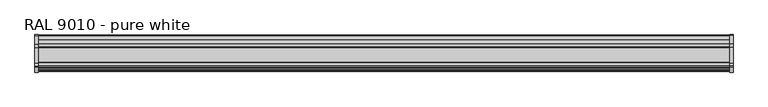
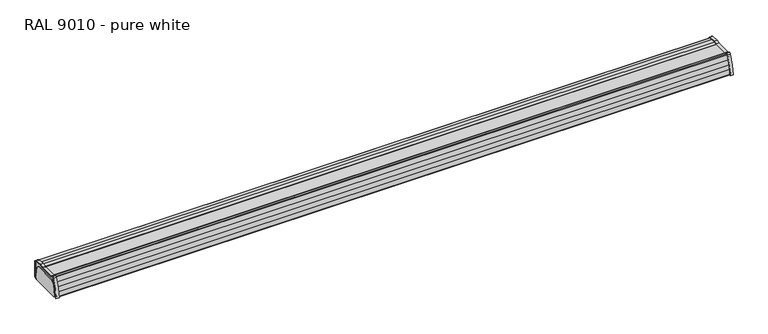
"""IFC4 building model written with IfcOpenShell, lengths in millimetres: proxy geometry, Electrical_Installations_Hager_GBD-Curved-Lid-End-Cap : RAL 9010 - pure white."""

from ifc_helpers import new_model, si_unit, point, frame, frame_2d, origin, place, context, project, spatial, polyline, circle_curve, trimmed, segment, composite_curve, outline, extrude, source, transform, mapped, element, save
from ifc_brep_helpers import plane_surface, cylinder_surface, revolved_surface, advanced_brep


def ral_9010_pure_white_2c4c2dfb(model_context):
    return source(origin(), model_context, "Body", "SolidModel", [
        advanced_brep(
        [(2.5, 26.6837112, 30.225685), (2.5, 50.7835434, 27.4641372), (2.5, 52.5716104, 25.3259929), (2.5, 52.5716104, -21.9074834), (2.5, 47.4790938, -27.0), (2.5, 49.0716104, -27.0), (2.5, 54.0716104, -22.0), (2.5, 54.0716104, 25.3713094), (2.5, 51.0170743, 28.9997666), (2.5, 26.4999039, 31.7431557), (2.5, 17.1340337, 28.7), (2.5, -27.8908129, 28.7), (2.5, -36.5324722, 31.5078453), (2.5, -41.1489062, 29.3458662), (2.5, -54.5315388, -27.0), (2.5, -53.028134, -27.0), (2.5, -39.7920307, 28.7218397), (2.5, -36.9397961, 30.0629995), (2.5, -28.1283896, 27.2), (2.5, 17.3716104, 27.2), (-6.5, 26.6837112, 30.225685), (-6.5, 17.3716104, 27.2), (-6.5, -28.1283896, 27.2), (-6.5, -36.9397961, 30.0629995), (-6.5, -39.7920307, 28.7218397), (-6.5, -53.028134, -27.0), (-6.5, -54.5315388, -27.0), (-6.5, -41.1489062, 29.3458662), (-6.5, -36.5324722, 31.5078453), (-6.5, -27.8908129, 28.7), (-6.5, 17.1340337, 28.7), (-6.5, 26.4999039, 31.7431557), (-6.5, 51.0170743, 28.9997666), (-6.5, 54.0716104, 25.3713094), (-6.5, 54.0716104, -22.0), (-6.5, 49.0716104, -27.0), (-6.5, 47.4790938, -27.0), (-6.5, 52.5716104, -21.9074834), (-6.5, 52.5716104, 25.3259929), (-6.5, 50.7835434, 27.4641372), (0.0, 26.6837112, 30.225685), (0.0, 50.7835434, 27.4641372), (-4.0, 50.7835434, 27.4641372), (-4.0, 26.6837112, 30.225685), (0.0, 52.5716104, 25.3259929), (-4.0, 52.5716104, 25.3259929), (0.0, 52.5716104, -21.9074834), (-4.0, 52.5716104, -21.9074834), (0.0, 47.4790938, -27.0), (-4.0, 47.4790938, -27.0), (0.0, -53.028134, -27.0), (-4.0, -53.028134, -27.0), (-4.0, 54.0716104, -22.0), (0.0, 54.0716104, -22.0), (-4.0, 54.0716104, 25.3713094), (0.0, 54.0716104, 25.3713094), (-4.0, 51.0170743, 28.9997666), (0.0, 51.0170743, 28.9997666), (-4.0, 26.4999039, 31.7431557), (0.0, 26.4999039, 31.7431557), (-4.0, 17.1340337, 28.7), (0.0, 17.1340337, 28.7), (-4.0, -27.8908129, 28.7), (0.0, -27.8908129, 28.7), (-4.0, -36.5324722, 31.5078453), (0.0, -36.5324722, 31.5078453), (-4.0, -41.1489062, 29.3458662), (0.0, -41.1489062, 29.3458662), (0.0, -39.7920307, 28.7218397), (-4.0, -39.7920307, 28.7218397), (0.0, -36.9397961, 30.0629995), (-4.0, -36.9397961, 30.0629995), (0.0, -28.1283896, 27.2), (-4.0, -28.1283896, 27.2), (0.0, 17.3716104, 27.2), (-4.0, 17.3716104, 27.2)],
        [
            (0, 1, circle_curve(frame((2.5, 17.1098069, -159.8646395), z_axis=(-1.0, 0.0, 0.0), x_axis=(0.0, -1.0, 0.0)), 190.3312667)),
            (1, 2, circle_curve(frame((2.5, 50.3991961, 25.3259929), z_axis=(-1.0, 0.0, 0.0), x_axis=(0.0, -1.0, 0.0)), 2.1724143)),
            (2, 3),
            (3, 4),
            (4, 5),
            (5, 6),
            (6, 7),
            (7, 8, circle_curve(frame((2.5, 50.3892358, 25.3713094), z_axis=(1.0, 0.0, 0.0), x_axis=(0.0, -1.0, 0.0)), 3.6823746)),
            (8, 9, circle_curve(frame((2.5, 15.8869808, -174.0270531), z_axis=(1.0, 0.0, 0.0), x_axis=(0.0, -1.0, 0.0)), 206.0437162)),
            (9, 10),
            (10, 11),
            (11, 12),
            (12, 13, circle_curve(frame((2.5, -37.685306, 27.9597874), z_axis=(1.0, 0.0, 0.0), x_axis=(0.0, -1.0, 0.0)), 3.7306488)),
            (13, 14, circle_curve(frame((2.5, 141.8051328, -43.8694858), z_axis=(1.0, 0.0, 0.0), x_axis=(0.0, -1.0, 0.0)), 197.0600623)),
            (14, 15),
            (15, 16, circle_curve(frame((2.5, 145.2588707, -44.6679083), z_axis=(-1.0, 0.0, 0.0), x_axis=(0.0, -1.0, 0.0)), 199.0725777)),
            (16, 17, circle_curve(frame((2.5, -37.6514074, 27.8728851), z_axis=(-1.0, 0.0, 0.0), x_axis=(0.0, -1.0, 0.0)), 2.3028226)),
            (17, 18),
            (18, 19),
            (19, 0),
            (20, 21),
            (21, 22),
            (22, 23),
            (23, 24, circle_curve(frame((-6.5, -37.6514074, 27.8728851), z_axis=(1.0, 0.0, 0.0), x_axis=(0.0, -1.0, 0.0)), 2.3028226)),
            (24, 25, circle_curve(frame((-6.5, 145.2588707, -44.6679083), z_axis=(1.0, 0.0, 0.0), x_axis=(0.0, -1.0, 0.0)), 199.0725777)),
            (25, 26),
            (26, 27, circle_curve(frame((-6.5, 141.8051328, -43.8694858), z_axis=(-1.0, 0.0, 0.0), x_axis=(0.0, -1.0, 0.0)), 197.0600623)),
            (27, 28, circle_curve(frame((-6.5, -37.685306, 27.9597874), z_axis=(-1.0, 0.0, 0.0), x_axis=(0.0, -1.0, 0.0)), 3.7306488)),
            (28, 29),
            (29, 30),
            (30, 31),
            (31, 32, circle_curve(frame((-6.5, 15.8869808, -174.0270531), z_axis=(-1.0, 0.0, 0.0), x_axis=(0.0, -1.0, 0.0)), 206.0437162)),
            (32, 33, circle_curve(frame((-6.5, 50.3892358, 25.3713094), z_axis=(-1.0, 0.0, 0.0), x_axis=(0.0, -1.0, 0.0)), 3.6823746)),
            (33, 34),
            (34, 35),
            (35, 36),
            (36, 37),
            (37, 38),
            (38, 39, circle_curve(frame((-6.5, 50.3991961, 25.3259929), z_axis=(1.0, 0.0, 0.0), x_axis=(0.0, -1.0, 0.0)), 2.1724143)),
            (39, 20, circle_curve(frame((-6.5, 17.1098069, -159.8646395), z_axis=(1.0, 0.0, 0.0), x_axis=(0.0, -1.0, 0.0)), 190.3312667)),
            (0, 40),
            (40, 41, circle_curve(frame((0.0, 17.1098069, -159.8646395), z_axis=(-1.0, 0.0, 0.0), x_axis=(0.0, -1.0, 0.0)), 190.3312667)),
            (41, 1),
            (39, 42),
            (42, 43, circle_curve(frame((-4.0, 17.1098069, -159.8646395), z_axis=(1.0, 0.0, 0.0), x_axis=(0.0, -1.0, 0.0)), 190.3312667)),
            (43, 20),
            (41, 44, circle_curve(frame((0.0, 50.3991961, 25.3259929), z_axis=(-1.0, 0.0, 0.0), x_axis=(0.0, -1.0, 0.0)), 2.1724143)),
            (44, 2),
            (38, 45),
            (45, 42, circle_curve(frame((-4.0, 50.3991961, 25.3259929), z_axis=(1.0, 0.0, 0.0), x_axis=(0.0, -1.0, 0.0)), 2.1724143)),
            (44, 46),
            (46, 3),
            (37, 47),
            (47, 45),
            (46, 48),
            (48, 4),
            (36, 49),
            (49, 47),
            (48, 50),
            (50, 15),
            (14, 26),
            (25, 51),
            (51, 49),
            (35, 5),
            (34, 52),
            (52, 53),
            (53, 6),
            (33, 54),
            (54, 55),
            (55, 7),
            (32, 56),
            (56, 57),
            (57, 8),
            (31, 58),
            (58, 59),
            (59, 9),
            (30, 60),
            (60, 61),
            (61, 10),
            (29, 62),
            (62, 63),
            (63, 11),
            (28, 64),
            (64, 65),
            (65, 12),
            (27, 66),
            (66, 67),
            (67, 13),
            (50, 68, circle_curve(frame((0.0, 145.2588707, -44.6679083), z_axis=(-1.0, 0.0, 0.0), x_axis=(0.0, -1.0, 0.0)), 199.0725777)),
            (68, 16),
            (24, 69),
            (69, 51, circle_curve(frame((-4.0, 145.2588707, -44.6679083), z_axis=(1.0, 0.0, 0.0), x_axis=(0.0, -1.0, 0.0)), 199.0725777)),
            (68, 70, circle_curve(frame((0.0, -37.6514074, 27.8728851), z_axis=(-1.0, 0.0, 0.0), x_axis=(0.0, -1.0, 0.0)), 2.3028226)),
            (70, 17),
            (23, 71),
            (71, 69, circle_curve(frame((-4.0, -37.6514074, 27.8728851), z_axis=(1.0, 0.0, 0.0), x_axis=(0.0, -1.0, 0.0)), 2.3028226)),
            (70, 72),
            (72, 18),
            (22, 73),
            (73, 71),
            (72, 74),
            (74, 19),
            (21, 75),
            (75, 73),
            (74, 40),
            (43, 75),
        ],
        [
            plane_surface(frame((2.5, 0.0, 0.0), z_axis=(1.0, 0.0, 0.0), x_axis=(0.0, 0.0, 1.0))),
            plane_surface(frame((-6.5, 0.0, 0.0), z_axis=(-1.0, 0.0, 0.0), x_axis=(0.0, 0.0, 1.0))),
            revolved_surface(polyline([(0.0, -173.2214598, -159.8646395), (2.5, -173.2214598, -159.8646395)]), (2.5, 17.1098069, -159.8646395), (-1.0, 0.0, 0.0)),
            revolved_surface(polyline([(-6.5, -173.2214598, -159.8646395), (-4.0, -173.2214598, -159.8646395)]), (2.5, 17.1098069, -159.8646395), (-1.0, 0.0, 0.0)),
            revolved_surface(polyline([(0.0, 48.2267818, 25.3259929), (2.5, 48.2267818, 25.3259929)]), (2.5, 50.3991961, 25.3259929), (-1.0, 0.0, 0.0)),
            revolved_surface(polyline([(-6.5, 48.2267818, 25.3259929), (-4.0, 48.2267818, 25.3259929)]), (2.5, 50.3991961, 25.3259929), (-1.0, 0.0, 0.0)),
            plane_surface(frame((2.5, 52.5716104, 25.3259929), z_axis=(0.0, -1.0, 0.0), x_axis=(-1.0, 0.0, 0.0))),
            plane_surface(frame((2.5, 52.5716104, -21.9074834), z_axis=(0.0, -0.7071067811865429, 0.7071067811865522), x_axis=(-1.0, 0.0, 0.0))),
            plane_surface(frame((2.5, 47.4790938, -27.0), z_axis=(0.0, 0.0, -1.0), x_axis=(-1.0, 0.0, 0.0))),
            plane_surface(frame((2.5, 49.0716104, -27.0), z_axis=(0.0, 0.7071067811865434, -0.7071067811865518), x_axis=(-1.0, 0.0, 0.0))),
            plane_surface(frame((2.5, 54.0716104, -22.0), z_axis=(0.0, 1.0, 0.0), x_axis=(-1.0, 0.0, 0.0))),
            cylinder_surface(frame((2.5, 50.3892358, 25.3713094), z_axis=(1.0, 0.0, 0.0), x_axis=(0.0, -1.0, 0.0)), 3.6823746),
            cylinder_surface(frame((2.5, 15.8869808, -174.0270531), z_axis=(1.0, 0.0, 0.0), x_axis=(0.0, -1.0, 0.0)), 206.0437162),
            plane_surface(frame((2.5, 26.4999039, 31.7431557), z_axis=(0.0, -0.3090169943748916, 0.9510565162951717), x_axis=(-1.0, 0.0, 0.0))),
            plane_surface(frame((2.5, 17.1340337, 28.7), z_axis=(0.0, 0.0, 1.0), x_axis=(-1.0, 0.0, 0.0))),
            plane_surface(frame((2.5, -27.8908129, 28.7), z_axis=(0.0, 0.3090169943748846, 0.9510565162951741), x_axis=(-1.0, 0.0, 0.0))),
            cylinder_surface(frame((2.5, -37.685306, 27.9597874), z_axis=(1.0, 0.0, 0.0), x_axis=(0.0, -1.0, 0.0)), 3.7306488),
            cylinder_surface(frame((2.5, 141.8051328, -43.8694858), z_axis=(1.0, 0.0, 0.0), x_axis=(0.0, -1.0, 0.0)), 197.0600623),
            revolved_surface(polyline([(0.0, -53.81370700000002, -44.6679083), (2.5, -53.81370700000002, -44.6679083)]), (2.5, 145.2588707, -44.6679083), (-1.0, 0.0, 0.0)),
            revolved_surface(polyline([(-6.5, -53.81370700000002, -44.6679083), (-4.0, -53.81370700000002, -44.6679083)]), (2.5, 145.2588707, -44.6679083), (-1.0, 0.0, 0.0)),
            revolved_surface(polyline([(0.0, -39.954229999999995, 27.8728851), (2.5, -39.954229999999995, 27.8728851)]), (2.5, -37.6514074, 27.8728851), (-1.0, 0.0, 0.0)),
            revolved_surface(polyline([(-6.5, -39.954229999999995, 27.8728851), (-4.0, -39.954229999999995, 27.8728851)]), (2.5, -37.6514074, 27.8728851), (-1.0, 0.0, 0.0)),
            plane_surface(frame((2.5, -36.9397961, 30.0629995), z_axis=(0.0, -0.30901699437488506, -0.9510565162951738), x_axis=(-1.0, 0.0, 0.0))),
            plane_surface(frame((2.5, -28.1283896, 27.2), z_axis=(0.0, 0.0, -1.0), x_axis=(-1.0, 0.0, 0.0))),
            plane_surface(frame((2.5, 17.3716104, 27.2), z_axis=(0.0, 0.3090169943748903, -0.9510565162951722), x_axis=(-1.0, 0.0, 0.0))),
            plane_surface(frame((-4.0, 0.0, 0.0), z_axis=(-1.0, 0.0, 0.0), x_axis=(0.0, 0.0, 1.0))),
            plane_surface(frame((0.0, 0.0, 0.0), z_axis=(1.0, 0.0, 0.0), x_axis=(0.0, 0.0, 1.0))),
        ],
        [
            (0, [[1, 2, 3, 4, 5, 6, 7, 8, 9, 10, 11, 12, 13, 14, 15, 16, 17, 18, 19, 20]]),
            (1, [[21, 22, 23, 24, 25, 26, 27, 28, 29, 30, 31, 32, 33, 34, 35, 36, 37, 38, 39, 40]]),
            (2, [[-1, 41, 42, 43]]),
            (3, [[-40, 44, 45, 46]]),
            (4, [[-2, -43, 47, 48]]),
            (5, [[-39, 49, 50, -44]]),
            (6, [[-3, -48, 51, 52]]),
            (6, [[-38, 53, 54, -49]]),
            (7, [[-4, -52, 55, 56]]),
            (7, [[-37, 57, 58, -53]]),
            (8, [[-5, -56, 59, 60, -15, 61, -26, 62, 63, -57, -36, 64]]),
            (9, [[-6, -64, -35, 65, 66, 67]]),
            (10, [[-7, -67, -66, -65, -34, 68, 69, 70]]),
            (11, [[-8, -70, -69, -68, -33, 71, 72, 73]]),
            (12, [[-9, -73, -72, -71, -32, 74, 75, 76]]),
            (13, [[-10, -76, -75, -74, -31, 77, 78, 79]]),
            (14, [[-11, -79, -78, -77, -30, 80, 81, 82]]),
            (15, [[-12, -82, -81, -80, -29, 83, 84, 85]]),
            (16, [[-13, -85, -84, -83, -28, 86, 87, 88]]),
            (17, [[-61, -14, -88, -87, -86, -27]]),
            (18, [[-16, -60, 89, 90]]),
            (19, [[-25, 91, 92, -62]]),
            (20, [[-17, -90, 93, 94]]),
            (21, [[-24, 95, 96, -91]]),
            (22, [[-18, -94, 97, 98]]),
            (22, [[-23, 99, 100, -95]]),
            (23, [[-19, -98, 101, 102]]),
            (23, [[-22, 103, 104, -99]]),
            (24, [[-20, -102, 105, -41]]),
            (24, [[-21, -46, 106, -103]]),
            (25, [[-63, -92, -96, -100, -104, -106, -45, -50, -54, -58]]),
            (26, [[-59, -55, -51, -47, -42, -105, -101, -97, -93, -89]]),
        ],
    ),
        advanced_brep(
        [(1997.5, -27.8908129, 28.7157982), (1997.5, 17.1340337, 28.7157982), (1997.5, 26.4999039, 31.7589539), (1997.5, 51.0170743, 29.0155647), (1997.5, 54.0716104, 25.3871076), (1997.5, 54.0716104, -21.9842018), (1997.5, 49.0716104, -26.9842018), (1997.5, 47.4790938, -26.9842018), (1997.5, 52.5716104, -21.8916852), (1997.5, 52.5716104, 25.3417911), (1997.5, 50.7835434, 27.4799354), (1997.5, 26.6837112, 30.2414832), (1997.5, 17.3716104, 27.2157982), (1997.5, -28.1283896, 27.2157982), (1997.5, -36.9397961, 30.0787977), (1997.5, -39.7920307, 28.7376378), (1997.5, -53.028134, -26.9842018), (1997.5, -54.5315388, -26.9842018), (1997.5, -41.1489062, 29.3616644), (1997.5, -36.5324722, 31.5236435), (2006.5, -27.8908129, 28.7157982), (2006.5, -36.5324722, 31.5236435), (2006.5, -41.1489062, 29.3616644), (2006.5, -54.5315388, -26.9842018), (2006.5, -53.028134, -26.9842018), (2006.5, -39.7920307, 28.7376378), (2006.5, -36.9397961, 30.0787977), (2006.5, -28.1283896, 27.2157982), (2006.5, 17.3716104, 27.2157982), (2006.5, 26.6837112, 30.2414832), (2006.5, 50.7835434, 27.4799354), (2006.5, 52.5716104, 25.3417911), (2006.5, 52.5716104, -21.8916852), (2006.5, 47.4790938, -26.9842018), (2006.5, 49.0716104, -26.9842018), (2006.5, 54.0716104, -21.9842018), (2006.5, 54.0716104, 25.3871076), (2006.5, 51.0170743, 29.0155647), (2006.5, 26.4999039, 31.7589539), (2006.5, 17.1340337, 28.7157982), (2000.0, -27.8908129, 28.7157982), (2004.0, -27.8908129, 28.7157982), (2004.0, 17.1340337, 28.7157982), (2000.0, 17.1340337, 28.7157982), (2004.0, 26.4999039, 31.7589539), (2000.0, 26.4999039, 31.7589539), (2004.0, 51.0170743, 29.0155647), (2000.0, 51.0170743, 29.0155647), (2004.0, 54.0716104, 25.3871076), (2000.0, 54.0716104, 25.3871076), (2004.0, 54.0716104, -21.9842018), (2000.0, 54.0716104, -21.9842018), (2000.0, -53.028134, -26.9842018), (2000.0, 47.4790938, -26.9842018), (2004.0, 47.4790938, -26.9842018), (2004.0, -53.028134, -26.9842018), (2004.0, -41.1489062, 29.3616644), (2000.0, -41.1489062, 29.3616644), (2004.0, -36.5324722, 31.5236435), (2000.0, -36.5324722, 31.5236435), (2000.0, 52.5716104, -21.8916852), (2004.0, 52.5716104, -21.8916852), (2000.0, 52.5716104, 25.3417911), (2004.0, 52.5716104, 25.3417911), (2000.0, 50.7835434, 27.4799354), (2004.0, 50.7835434, 27.4799354), (2000.0, 26.6837112, 30.2414832), (2004.0, 26.6837112, 30.2414832), (2000.0, 17.3716104, 27.2157982), (2004.0, 17.3716104, 27.2157982), (2000.0, -28.1283896, 27.2157982), (2004.0, -28.1283896, 27.2157982), (2000.0, -36.9397961, 30.0787977), (2004.0, -36.9397961, 30.0787977), (2000.0, -39.7920307, 28.7376378), (2004.0, -39.7920307, 28.7376378)],
        [
            (0, 1),
            (1, 2),
            (2, 3, circle_curve(frame((1997.5, 15.8869808, -174.0112549), z_axis=(-1.0, 0.0, 0.0), x_axis=(0.0, 1.0, 0.0)), 206.0437162)),
            (3, 4, circle_curve(frame((1997.5, 50.3892358, 25.3871076), z_axis=(-1.0, 0.0, 0.0), x_axis=(0.0, 1.0, 0.0)), 3.6823746)),
            (4, 5),
            (5, 6),
            (6, 7),
            (7, 8),
            (8, 9),
            (9, 10, circle_curve(frame((1997.5, 50.3991961, 25.3417911), z_axis=(1.0, 0.0, 0.0), x_axis=(0.0, 1.0, 0.0)), 2.1724143)),
            (10, 11, circle_curve(frame((1997.5, 17.1098069, -159.8488413), z_axis=(1.0, 0.0, 0.0), x_axis=(0.0, 1.0, 0.0)), 190.3312667)),
            (11, 12),
            (12, 13),
            (13, 14),
            (14, 15, circle_curve(frame((1997.5, -37.6514074, 27.8886833), z_axis=(1.0, 0.0, 0.0), x_axis=(0.0, 1.0, 0.0)), 2.3028226)),
            (15, 16, circle_curve(frame((1997.5, 145.2588707, -44.6521101), z_axis=(1.0, 0.0, 0.0), x_axis=(0.0, 1.0, 0.0)), 199.0725777)),
            (16, 17),
            (17, 18, circle_curve(frame((1997.5, 141.8051328, -43.8536876), z_axis=(-1.0, 0.0, 0.0), x_axis=(0.0, 1.0, 0.0)), 197.0600623)),
            (18, 19, circle_curve(frame((1997.5, -37.685306, 27.9755856), z_axis=(-1.0, 0.0, 0.0), x_axis=(0.0, 1.0, 0.0)), 3.7306488)),
            (19, 0),
            (20, 21),
            (21, 22, circle_curve(frame((2006.5, -37.685306, 27.9755856), z_axis=(1.0, 0.0, 0.0), x_axis=(0.0, 1.0, 0.0)), 3.7306488)),
            (22, 23, circle_curve(frame((2006.5, 141.8051328, -43.8536876), z_axis=(1.0, 0.0, 0.0), x_axis=(0.0, 1.0, 0.0)), 197.0600623)),
            (23, 24),
            (24, 25, circle_curve(frame((2006.5, 145.2588707, -44.6521101), z_axis=(-1.0, 0.0, 0.0), x_axis=(0.0, 1.0, 0.0)), 199.0725777)),
            (25, 26, circle_curve(frame((2006.5, -37.6514074, 27.8886833), z_axis=(-1.0, 0.0, 0.0), x_axis=(0.0, 1.0, 0.0)), 2.3028226)),
            (26, 27),
            (27, 28),
            (28, 29),
            (29, 30, circle_curve(frame((2006.5, 17.1098069, -159.8488413), z_axis=(-1.0, 0.0, 0.0), x_axis=(0.0, 1.0, 0.0)), 190.3312667)),
            (30, 31, circle_curve(frame((2006.5, 50.3991961, 25.3417911), z_axis=(-1.0, 0.0, 0.0), x_axis=(0.0, 1.0, 0.0)), 2.1724143)),
            (31, 32),
            (32, 33),
            (33, 34),
            (34, 35),
            (35, 36),
            (36, 37, circle_curve(frame((2006.5, 50.3892358, 25.3871076), z_axis=(1.0, 0.0, 0.0), x_axis=(0.0, 1.0, 0.0)), 3.6823746)),
            (37, 38, circle_curve(frame((2006.5, 15.8869808, -174.0112549), z_axis=(1.0, 0.0, 0.0), x_axis=(0.0, 1.0, 0.0)), 206.0437162)),
            (38, 39),
            (39, 20),
            (0, 40),
            (40, 41),
            (41, 20),
            (39, 42),
            (42, 43),
            (43, 1),
            (38, 44),
            (44, 45),
            (45, 2),
            (37, 46),
            (46, 47),
            (47, 3),
            (36, 48),
            (48, 49),
            (49, 4),
            (35, 50),
            (50, 51),
            (51, 5),
            (34, 6),
            (16, 52),
            (52, 53),
            (53, 7),
            (33, 54),
            (54, 55),
            (55, 24),
            (23, 17),
            (22, 56),
            (56, 57),
            (57, 18),
            (21, 58),
            (58, 59),
            (59, 19),
            (53, 60),
            (60, 8),
            (32, 61),
            (61, 54),
            (60, 62),
            (62, 9),
            (31, 63),
            (63, 61),
            (62, 64, circle_curve(frame((2000.0, 50.3991961, 25.3417911), z_axis=(1.0, 0.0, 0.0), x_axis=(0.0, 1.0, 0.0)), 2.1724143)),
            (64, 10),
            (30, 65),
            (65, 63, circle_curve(frame((2004.0, 50.3991961, 25.3417911), z_axis=(-1.0, 0.0, 0.0), x_axis=(0.0, 1.0, 0.0)), 2.1724143)),
            (64, 66, circle_curve(frame((2000.0, 17.1098069, -159.8488413), z_axis=(1.0, 0.0, 0.0), x_axis=(0.0, 1.0, 0.0)), 190.3312667)),
            (66, 11),
            (29, 67),
            (67, 65, circle_curve(frame((2004.0, 17.1098069, -159.8488413), z_axis=(-1.0, 0.0, 0.0), x_axis=(0.0, 1.0, 0.0)), 190.3312667)),
            (66, 68),
            (68, 12),
            (28, 69),
            (69, 67),
            (68, 70),
            (70, 13),
            (27, 71),
            (71, 69),
            (70, 72),
            (72, 14),
            (26, 73),
            (73, 71),
            (72, 74, circle_curve(frame((2000.0, -37.6514074, 27.8886833), z_axis=(1.0, 0.0, 0.0), x_axis=(0.0, 1.0, 0.0)), 2.3028226)),
            (74, 15),
            (25, 75),
            (75, 73, circle_curve(frame((2004.0, -37.6514074, 27.8886833), z_axis=(-1.0, 0.0, 0.0), x_axis=(0.0, 1.0, 0.0)), 2.3028226)),
            (74, 52, circle_curve(frame((2000.0, 145.2588707, -44.6521101), z_axis=(1.0, 0.0, 0.0), x_axis=(0.0, 1.0, 0.0)), 199.0725777)),
            (55, 75, circle_curve(frame((2004.0, 145.2588707, -44.6521101), z_axis=(-1.0, 0.0, 0.0), x_axis=(0.0, 1.0, 0.0)), 199.0725777)),
        ],
        [
            plane_surface(frame((1997.5, 0.0, 0.0), z_axis=(-1.0, 0.0, 0.0), x_axis=(0.0, 0.0, 1.0))),
            plane_surface(frame((2006.5, 0.0, 0.0), z_axis=(1.0, 0.0, 0.0), x_axis=(0.0, 0.0, 1.0))),
            plane_surface(frame((1997.5, -27.8908129, 28.7157982), z_axis=(0.0, 0.0, 1.0), x_axis=(1.0, 0.0, 0.0))),
            plane_surface(frame((1997.5, 17.1340337, 28.7157982), z_axis=(0.0, -0.30901699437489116, 0.951056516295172), x_axis=(1.0, 0.0, 0.0))),
            cylinder_surface(frame((1997.5, 15.8869808, -174.0112549), z_axis=(-1.0, 0.0, 0.0), x_axis=(0.0, 1.0, 0.0)), 206.0437162),
            cylinder_surface(frame((1997.5, 50.3892358, 25.3871076), z_axis=(-1.0, 0.0, 0.0), x_axis=(0.0, 1.0, 0.0)), 3.6823746),
            plane_surface(frame((1997.5, 54.0716104, 25.3871076), z_axis=(0.0, 1.0, 0.0), x_axis=(1.0, 0.0, 0.0))),
            plane_surface(frame((1997.5, 54.0716104, -21.9842018), z_axis=(0.0, 0.7071067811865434, -0.7071067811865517), x_axis=(1.0, 0.0, 0.0))),
            plane_surface(frame((1997.5, -53.028134, -26.9842018), z_axis=(0.0, 0.0, -1.0), x_axis=(1.0, 0.0, 0.0))),
            cylinder_surface(frame((1997.5, 141.8051328, -43.8536876), z_axis=(-1.0, 0.0, 0.0), x_axis=(0.0, 1.0, 0.0)), 197.0600623),
            cylinder_surface(frame((1997.5, -37.685306, 27.9755856), z_axis=(-1.0, 0.0, 0.0), x_axis=(0.0, 1.0, 0.0)), 3.7306488),
            plane_surface(frame((1997.5, -36.5324722, 31.5236435), z_axis=(0.0, 0.30901699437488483, 0.951056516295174), x_axis=(1.0, 0.0, 0.0))),
            plane_surface(frame((1997.5, 47.4790938, -26.9842018), z_axis=(0.0, -0.7071067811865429, 0.7071067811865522), x_axis=(1.0, 0.0, 0.0))),
            plane_surface(frame((1997.5, 52.5716104, -21.8916852), z_axis=(0.0, -1.0, 0.0), x_axis=(1.0, 0.0, 0.0))),
            revolved_surface(polyline([(2000.0, 52.5716104, 25.3417911), (1997.5, 52.5716104, 25.3417911)]), (1997.5, 50.3991961, 25.3417911), (1.0, 0.0, 0.0)),
            revolved_surface(polyline([(2006.5, 52.5716104, 25.3417911), (2004.0, 52.5716104, 25.3417911)]), (1997.5, 50.3991961, 25.3417911), (1.0, 0.0, 0.0)),
            revolved_surface(polyline([(2000.0, 207.44107359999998, -159.8488413), (1997.5, 207.44107359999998, -159.8488413)]), (1997.5, 17.1098069, -159.8488413), (1.0, 0.0, 0.0)),
            revolved_surface(polyline([(2006.5, 207.44107359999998, -159.8488413), (2004.0, 207.44107359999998, -159.8488413)]), (1997.5, 17.1098069, -159.8488413), (1.0, 0.0, 0.0)),
            plane_surface(frame((1997.5, 26.6837112, 30.2414832), z_axis=(0.0, 0.3090169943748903, -0.9510565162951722), x_axis=(1.0, 0.0, 0.0))),
            plane_surface(frame((1997.5, 17.3716104, 27.2157982), z_axis=(0.0, 0.0, -1.0), x_axis=(1.0, 0.0, 0.0))),
            plane_surface(frame((1997.5, -28.1283896, 27.2157982), z_axis=(0.0, -0.3090169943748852, -0.9510565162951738), x_axis=(1.0, 0.0, 0.0))),
            revolved_surface(polyline([(2000.0, -35.3485848, 27.8886833), (1997.5, -35.3485848, 27.8886833)]), (1997.5, -37.6514074, 27.8886833), (1.0, 0.0, 0.0)),
            revolved_surface(polyline([(2006.5, -35.3485848, 27.8886833), (2004.0, -35.3485848, 27.8886833)]), (1997.5, -37.6514074, 27.8886833), (1.0, 0.0, 0.0)),
            revolved_surface(polyline([(2000.0, 344.3314484, -44.6521101), (1997.5, 344.3314484, -44.6521101)]), (1997.5, 145.2588707, -44.6521101), (1.0, 0.0, 0.0)),
            revolved_surface(polyline([(2006.5, 344.3314484, -44.6521101), (2004.0, 344.3314484, -44.6521101)]), (1997.5, 145.2588707, -44.6521101), (1.0, 0.0, 0.0)),
            plane_surface(frame((2000.0, 0.0, 0.0), z_axis=(-1.0, 0.0, 0.0), x_axis=(0.0, 0.0, 1.0))),
            plane_surface(frame((2004.0, 0.0, 0.0), z_axis=(1.0, 0.0, 0.0), x_axis=(0.0, 0.0, 1.0))),
        ],
        [
            (0, [[1, 2, 3, 4, 5, 6, 7, 8, 9, 10, 11, 12, 13, 14, 15, 16, 17, 18, 19, 20]]),
            (1, [[21, 22, 23, 24, 25, 26, 27, 28, 29, 30, 31, 32, 33, 34, 35, 36, 37, 38, 39, 40]]),
            (2, [[-1, 41, 42, 43, -40, 44, 45, 46]]),
            (3, [[-2, -46, -45, -44, -39, 47, 48, 49]]),
            (4, [[-3, -49, -48, -47, -38, 50, 51, 52]]),
            (5, [[-4, -52, -51, -50, -37, 53, 54, 55]]),
            (6, [[-5, -55, -54, -53, -36, 56, 57, 58]]),
            (7, [[59, -6, -58, -57, -56, -35]]),
            (8, [[-17, 60, 61, 62, -7, -59, -34, 63, 64, 65, -24, 66]]),
            (9, [[-18, -66, -23, 67, 68, 69]]),
            (10, [[-19, -69, -68, -67, -22, 70, 71, 72]]),
            (11, [[-20, -72, -71, -70, -21, -43, -42, -41]]),
            (12, [[-8, -62, 73, 74]]),
            (12, [[-33, 75, 76, -63]]),
            (13, [[-9, -74, 77, 78]]),
            (13, [[-32, 79, 80, -75]]),
            (14, [[-10, -78, 81, 82]]),
            (15, [[-31, 83, 84, -79]]),
            (16, [[-11, -82, 85, 86]]),
            (17, [[-30, 87, 88, -83]]),
            (18, [[-12, -86, 89, 90]]),
            (18, [[-29, 91, 92, -87]]),
            (19, [[-13, -90, 93, 94]]),
            (19, [[-28, 95, 96, -91]]),
            (20, [[-14, -94, 97, 98]]),
            (20, [[-27, 99, 100, -95]]),
            (21, [[-15, -98, 101, 102]]),
            (22, [[-26, 103, 104, -99]]),
            (23, [[-16, -102, 105, -60]]),
            (24, [[-25, -65, 106, -103]]),
            (25, [[-61, -105, -101, -97, -93, -89, -85, -81, -77, -73]]),
            (26, [[-64, -76, -80, -84, -88, -92, -96, -100, -104, -106]]),
        ],
    ),
        extrude(outline(composite_curve([segment(trimmed(circle_curve(frame_2d((47.3086805, -25.0246784)), 1.9595234), [point((49.2549179, -24.796881))], [point((47.3086805, -26.9842018))], False, "CARTESIAN"), True, "CONTINUOUS"), segment(polyline([(47.3086805, -26.9842018), (-43.3893434, -26.9842018)]), True, "CONTINUOUS"), segment(trimmed(circle_curve(frame_2d((-43.3893434, -25.0446538)), 1.939548), [point((-43.3893434, -26.9842018))], [point((-45.3080889, -24.761348))], False, "CARTESIAN"), True, "CONTINUOUS"), segment(trimmed(circle_curve(frame_2d((824.1033241, -153.1313352)), 878.8373334), [point((-45.3080889, -24.761348))], [point((-42.1530432, -4.959257))], False, "CARTESIAN"), True, "CONTINUOUS"), segment(trimmed(circle_curve(frame_2d((1952.4387407, -529.0557529)), 2062.2981165), [point((-42.1530432, -4.959257))], [point((-37.0483937, 14.0965861))], False, "CARTESIAN"), True, "CONTINUOUS"), segment(trimmed(circle_curve(frame_2d((-31.2609533, 12.5165498)), 5.9992484), [point((-37.0483937, 14.0965861))], [point((-31.2609533, 18.5157982))], False, "CARTESIAN"), True, "CONTINUOUS"), segment(polyline([(-31.2609533, 18.5157982), (35.1451288, 18.5157982)]), True, "CONTINUOUS"), segment(trimmed(circle_curve(frame_2d((35.1451288, 12.3737525)), 6.1420457), [point((35.1451288, 18.5157982))], [point((41.0125236, 14.1899034))], False, "CARTESIAN"), True, "CONTINUOUS"), segment(trimmed(circle_curve(frame_2d((-166.5410383, -50.054726)), 217.2690807), [point((41.0125236, 14.1899034))], [point((49.2549179, -24.796881))], False, "CARTESIAN"), True, "CONTINUOUS")], self_intersect=False)), frame((-6.5, 0.0, 0.0), z_axis=(1.0, 0.0, 0.0), x_axis=(0.0, 1.0, 0.0)), (0.0, 0.0, 1.0), 2.5),
        extrude(outline(composite_curve([segment(polyline([(-31.2609533, 18.5157982), (35.1451288, 18.5157982)]), True, "CONTINUOUS"), segment(trimmed(circle_curve(frame_2d((35.1451288, 12.3737525)), 6.1420457), [point((35.1451288, 18.5157982))], [point((41.0125236, 14.1899034))], False, "CARTESIAN"), True, "CONTINUOUS"), segment(trimmed(circle_curve(frame_2d((-166.5410383, -50.054726)), 217.2690807), [point((41.0125236, 14.1899034))], [point((49.2549179, -24.796881))], False, "CARTESIAN"), True, "CONTINUOUS"), segment(trimmed(circle_curve(frame_2d((47.3086805, -25.0246784)), 1.9595234), [point((49.2549179, -24.796881))], [point((47.3086805, -26.9842018))], False, "CARTESIAN"), True, "CONTINUOUS"), segment(polyline([(47.3086805, -26.9842018), (-43.3893434, -26.9842018)]), True, "CONTINUOUS"), segment(trimmed(circle_curve(frame_2d((-43.3893434, -25.0446538)), 1.939548), [point((-43.3893434, -26.9842018))], [point((-45.3080889, -24.761348))], False, "CARTESIAN"), True, "CONTINUOUS"), segment(trimmed(circle_curve(frame_2d((824.1033241, -153.1313352)), 878.8373334), [point((-45.3080889, -24.761348))], [point((-42.1530432, -4.959257))], False, "CARTESIAN"), True, "CONTINUOUS"), segment(trimmed(circle_curve(frame_2d((1952.4387407, -529.0557529)), 2062.2981165), [point((-42.1530432, -4.959257))], [point((-37.0483937, 14.0965861))], False, "CARTESIAN"), True, "CONTINUOUS"), segment(trimmed(circle_curve(frame_2d((-31.2609533, 12.5165498)), 5.9992484), [point((-37.0483937, 14.0965861))], [point((-31.2609533, 18.5157982))], False, "CARTESIAN"), True, "CONTINUOUS")], self_intersect=False)), frame((2004.0, 0.0, 0.0), z_axis=(1.0, 0.0, 0.0), x_axis=(0.0, 1.0, 0.0)), (0.0, 0.0, 1.0), 2.5),
        extrude(outline(composite_curve([segment(polyline([(47.4790938, -26.9842018), (-50.5259688, -26.9842018)]), True, "CONTINUOUS"), segment(trimmed(circle_curve(frame_2d((-50.5259688, -24.9842018)), 2.0), [point((-50.5259688, -26.9842018))], [point((-52.5065049, -24.7058556))], False, "CARTESIAN"), True, "CONTINUOUS"), segment(polyline([(-52.5065049, -24.7058556), (-50.5940829, -11.0982656), (-47.7609777, 2.2304463), (-43.918985, 15.629067), (-39.1369375, 28.7676346)]), True, "CONTINUOUS"), segment(trimmed(circle_curve(frame_2d((-37.3393404, 28.1133628)), 1.9129628), [point((-39.1369375, 28.7676346))], [point((-36.7482024, 29.9326985))], False, "CARTESIAN"), True, "CONTINUOUS"), segment(polyline([(-36.7482024, 29.9326985), (-27.9271562, 27.0665669), (-27.9271562, 16.3157982), (-25.8021562, 16.3157982), (-25.8021562, 18.7742031), (-24.8021562, 18.7742031), (-24.8021562, 14.5157982), (-29.5709062, 14.5157982), (-29.5709062, 25.1822905), (-37.1011396, 27.6290117), (-41.7579125, 14.8346332), (-45.5490531, 1.6133548), (-48.2672715, -11.1748573), (-50.165886, -24.6842018), (46.5264026, -24.6842018), (50.1790938, -21.0315106), (50.1790938, 25.1116388), (38.245883, 26.7887422), (26.7209858, 27.6815377), (19.0290938, 25.1822905), (19.0290938, 14.5157982), (14.0650313, 14.5157982), (14.0650313, 18.7590849), (15.0650313, 18.7590849), (15.0650313, 16.3157982), (17.3853438, 16.3157982), (17.3853438, 26.3589187)]), True, "CONTINUOUS"), segment(trimmed(circle_curve(frame_2d((18.3593379, 26.3589187)), 0.9739941), [point((17.3853438, 26.3589187))], [point((18.0583572, 27.2852422))], False, "CARTESIAN"), True, "CONTINUOUS"), segment(polyline([(18.0583572, 27.2852422), (26.4407381, 30.0088429), (39.0390109, 29.0328965), (50.673, 27.3978459)]), True, "CONTINUOUS"), segment(trimmed(circle_curve(frame_2d((50.3810021, 25.3201727)), 2.0980917), [point((50.673, 27.3978459))], [point((52.4790938, 25.3201727))], False, "CARTESIAN"), True, "CONTINUOUS"), segment(polyline([(52.4790938, 25.3201727), (52.4790938, -21.9842018), (47.4790938, -26.9842018)]), True, "CONTINUOUS")], self_intersect=False)), frame((0.0, 0.0, 0.0), z_axis=(1.0, 0.0, 0.0), x_axis=(0.0, 1.0, 0.0)), (0.0, 0.0, 1.0), 2000.0),
        extrude(outline(composite_curve([segment(polyline([(15.745203, 25.6769183), (-26.154797, 25.6769183), (-26.154797, 22.3769183), (-22.704797, 22.3769183), (-22.704797, 10.7769183), (-20.804797, 10.7769183), (-20.804797, 9.9769183), (-23.704797, 9.9769183), (-23.704797, 21.3769183), (-26.4579385, 21.3769183), (-26.4579385, 16.9820828), (-27.4594845, 16.9820828), (-27.4594845, 26.1853119)]), True, "CONTINUOUS"), segment(trimmed(circle_curve(frame_2d((-26.5495226, 26.1853119)), 0.9099619), [point((-27.4594845, 26.1853119))], [point((-26.5495226, 27.0952739))], False, "CARTESIAN"), True, "CONTINUOUS"), segment(polyline([(-26.5495226, 27.0952739), (15.9245226, 27.0952739)]), True, "CONTINUOUS"), segment(trimmed(circle_curve(frame_2d((15.9245226, 26.0870935)), 1.0081804), [point((15.9245226, 27.0952739))], [point((16.932703, 26.0870935))], False, "CARTESIAN"), True, "CONTINUOUS"), segment(polyline([(16.932703, 26.0870935), (16.932703, 16.9491118), (16.0483444, 16.9491118), (16.0483444, 21.3769183), (13.295203, 21.3769183), (13.295203, 9.9769183), (10.395203, 9.9769183), (10.395203, 10.7769183), (12.295203, 10.7769183), (12.295203, 22.3769183), (15.745203, 22.3769183), (15.745203, 25.6769183)]), True, "CONTINUOUS")], self_intersect=False)), frame((0.0, 0.0, 0.0), z_axis=(1.0, 0.0, 0.0), x_axis=(0.0, 1.0, 0.0)), (0.0, 0.0, 1.0), 2000.0),
    ])


if __name__ == "__main__":
    model = new_model("IFC4")
    model_context = context("Model", 3, world=origin())
    ifc_project = project(units=[si_unit("LENGTHUNIT", "METRE", prefix="MILLI")], contexts=[model_context])
    site = spatial("IfcSite", under=ifc_project)
    building = spatial("IfcBuilding", under=site)
    placement = place(None, origin())
    ral_9010_pure_white_shape = ral_9010_pure_white_2c4c2dfb(model_context)
    element("IfcBuildingElementProxy", 1, Name="Electrical_Installations_Hager_GBD-Curved-Lid-End-Cap : RAL 9010 - pure white", ObjectType="Electrical_Installations_Hager_GBD-Curved-Lid-End-Cap : RAL 9010 - pure white", at=placement, inside=building, context=model_context, shape_type="MappedRepresentation", body=[
        mapped(ral_9010_pure_white_shape, transform((0.0, 0.0, 0.0), x_axis=(1.0, 0.0, 0.0), y_axis=(0.0, 1.0, 0.0), z_axis=(0.0, 0.0, 1.0))),
    ])
    save(model, "model.ifc")
